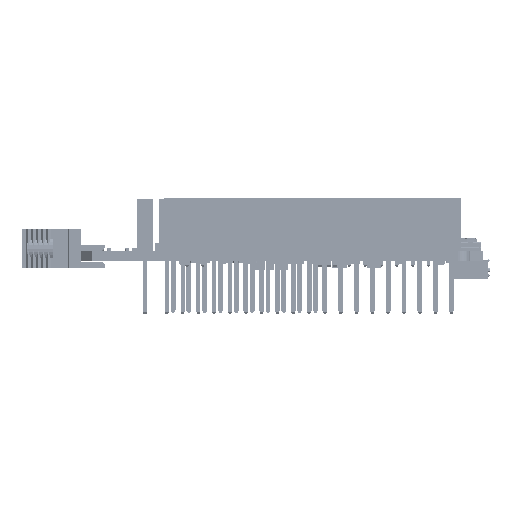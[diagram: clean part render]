
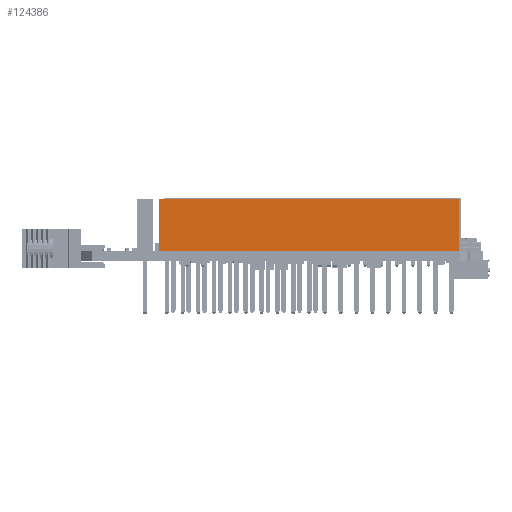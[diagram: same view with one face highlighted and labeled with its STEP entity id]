
A CAD part, left-side view. The second image highlights one B-rep face of the part: STEP entity #124386.
In plain terms, the highlighted planar face has unit normal (-1, 0, 0).
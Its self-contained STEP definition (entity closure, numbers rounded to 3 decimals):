
#124288 = EDGE_CURVE('',#124289,#124291,#124293,.T.);
#124289 = VERTEX_POINT('',#124290);
#124290 = CARTESIAN_POINT('',(-2.545,24.132,0.));
#124291 = VERTEX_POINT('',#124292);
#124292 = CARTESIAN_POINT('',(-2.545,24.132,8.38));
#124293 = LINE('',#124294,#124295);
#124294 = CARTESIAN_POINT('',(-2.545,24.132,0.));
#124295 = VECTOR('',#124296,1.);
#124296 = DIRECTION('',(0.,0.,1.));
#124361 = VERTEX_POINT('',#124362);
#124362 = CARTESIAN_POINT('',(-2.545,-24.132,8.38));
#124368 = EDGE_CURVE('',#124369,#124361,#124371,.T.);
#124369 = VERTEX_POINT('',#124370);
#124370 = CARTESIAN_POINT('',(-2.545,-24.132,0.));
#124371 = LINE('',#124372,#124373);
#124372 = CARTESIAN_POINT('',(-2.545,-24.132,0.));
#124373 = VECTOR('',#124374,1.);
#124374 = DIRECTION('',(0.,0.,1.));
#124386 = ADVANCED_FACE('',(#124387),#124403,.T.);
#124387 = FACE_BOUND('',#124388,.T.);
#124388 = EDGE_LOOP('',(#124389,#124390,#124396,#124397));
#124389 = ORIENTED_EDGE('',*,*,#124368,.T.);
#124390 = ORIENTED_EDGE('',*,*,#124391,.T.);
#124391 = EDGE_CURVE('',#124361,#124291,#124392,.T.);
#124392 = LINE('',#124393,#124394);
#124393 = CARTESIAN_POINT('',(-2.545,-24.132,8.38));
#124394 = VECTOR('',#124395,1.);
#124395 = DIRECTION('',(0.,1.,0.));
#124396 = ORIENTED_EDGE('',*,*,#124288,.F.);
#124397 = ORIENTED_EDGE('',*,*,#124398,.F.);
#124398 = EDGE_CURVE('',#124369,#124289,#124399,.T.);
#124399 = LINE('',#124400,#124401);
#124400 = CARTESIAN_POINT('',(-2.545,-24.132,0.));
#124401 = VECTOR('',#124402,1.);
#124402 = DIRECTION('',(0.,1.,0.));
#124403 = PLANE('',#124404);
#124404 = AXIS2_PLACEMENT_3D('',#124405,#124406,#124407);
#124405 = CARTESIAN_POINT('',(-2.545,-24.132,0.));
#124406 = DIRECTION('',(-1.,0.,0.));
#124407 = DIRECTION('',(0.,1.,0.));
